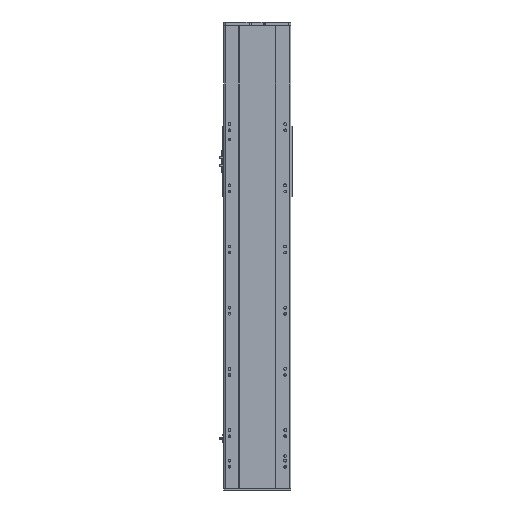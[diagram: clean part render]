
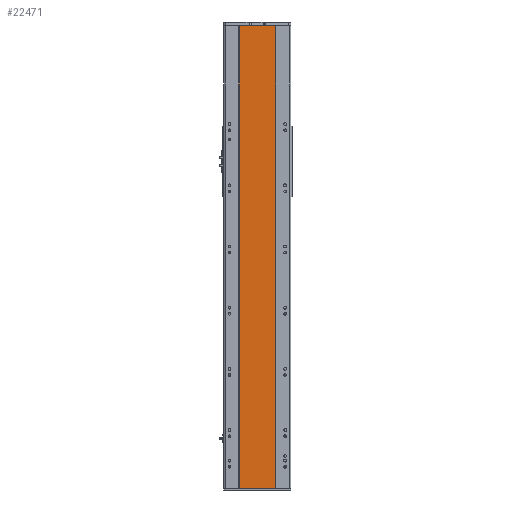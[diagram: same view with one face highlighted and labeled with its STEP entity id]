
A CAD part, front view. The second image highlights one B-rep face of the part: STEP entity #22471.
In plain terms, the highlighted planar face has unit normal (0, -1, 0).
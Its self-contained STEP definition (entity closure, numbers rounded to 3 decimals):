
#501 = ORIENTED_EDGE ( 'NONE', *, *, #11147, .T. ) ;
#1433 = DIRECTION ( 'NONE',  ( 1., 0., 0. ) ) ;
#1818 = VERTEX_POINT ( 'NONE', #4173 ) ;
#3970 = CARTESIAN_POINT ( 'NONE',  ( 59., 1., -755.5 ) ) ;
#4133 = LINE ( 'NONE', #27684, #26492 ) ;
#4173 = CARTESIAN_POINT ( 'NONE',  ( 59., 1., 755.5 ) ) ;
#6163 = VECTOR ( 'NONE', #16440, 1000. ) ;
#6355 = ORIENTED_EDGE ( 'NONE', *, *, #9056, .F. ) ;
#6552 = EDGE_CURVE ( 'NONE', #1818, #21317, #15936, .T. ) ;
#6588 = CARTESIAN_POINT ( 'NONE',  ( -59., 1., 755.5 ) ) ;
#6986 = ORIENTED_EDGE ( 'NONE', *, *, #10533, .T. ) ;
#9056 = EDGE_CURVE ( 'NONE', #18360, #1818, #4133, .T. ) ;
#10019 = CARTESIAN_POINT ( 'NONE',  ( -59., 1., -755.5 ) ) ;
#10351 = CARTESIAN_POINT ( 'NONE',  ( 59., 1., 755.5 ) ) ;
#10533 = EDGE_CURVE ( 'NONE', #18360, #38332, #12173, .T. ) ;
#11147 = EDGE_CURVE ( 'NONE', #38332, #21317, #20995, .T. ) ;
#11637 = VECTOR ( 'NONE', #1433, 1000. ) ;
#12173 = LINE ( 'NONE', #15695, #34949 ) ;
#12559 = DIRECTION ( 'NONE',  ( 0., 1., 0. ) ) ;
#15662 = DIRECTION ( 'NONE',  ( -1., 0., 0. ) ) ;
#15695 = CARTESIAN_POINT ( 'NONE',  ( -59., 1., 755.5 ) ) ;
#15835 = DIRECTION ( 'NONE',  ( 0., 0., -1. ) ) ;
#15854 = AXIS2_PLACEMENT_3D ( 'NONE', #6588, #12559, #15662 ) ;
#15936 = LINE ( 'NONE', #10351, #6163 ) ;
#16440 = DIRECTION ( 'NONE',  ( 0., 0., -1. ) ) ;
#18360 = VERTEX_POINT ( 'NONE', #22290 ) ;
#20995 = LINE ( 'NONE', #10019, #11637 ) ;
#21317 = VERTEX_POINT ( 'NONE', #3970 ) ;
#22237 = FACE_OUTER_BOUND ( 'NONE', #37120, .T. ) ;
#22290 = CARTESIAN_POINT ( 'NONE',  ( -59., 1., 755.5 ) ) ;
#22471 = ADVANCED_FACE ( 'NONE', ( #22237 ), #30621, .F. ) ;
#26492 = VECTOR ( 'NONE', #33757, 1000. ) ;
#27684 = CARTESIAN_POINT ( 'NONE',  ( -59., 1., 755.5 ) ) ;
#30621 = PLANE ( 'NONE',  #15854 ) ;
#33757 = DIRECTION ( 'NONE',  ( 1., 0., 0. ) ) ;
#34949 = VECTOR ( 'NONE', #15835, 1000. ) ;
#36002 = CARTESIAN_POINT ( 'NONE',  ( -59., 1., -755.5 ) ) ;
#37120 = EDGE_LOOP ( 'NONE', ( #501, #37766, #6355, #6986 ) ) ;
#37766 = ORIENTED_EDGE ( 'NONE', *, *, #6552, .F. ) ;
#38332 = VERTEX_POINT ( 'NONE', #36002 ) ;
